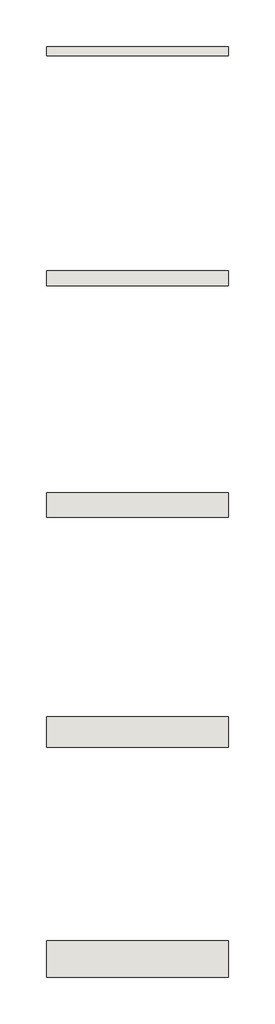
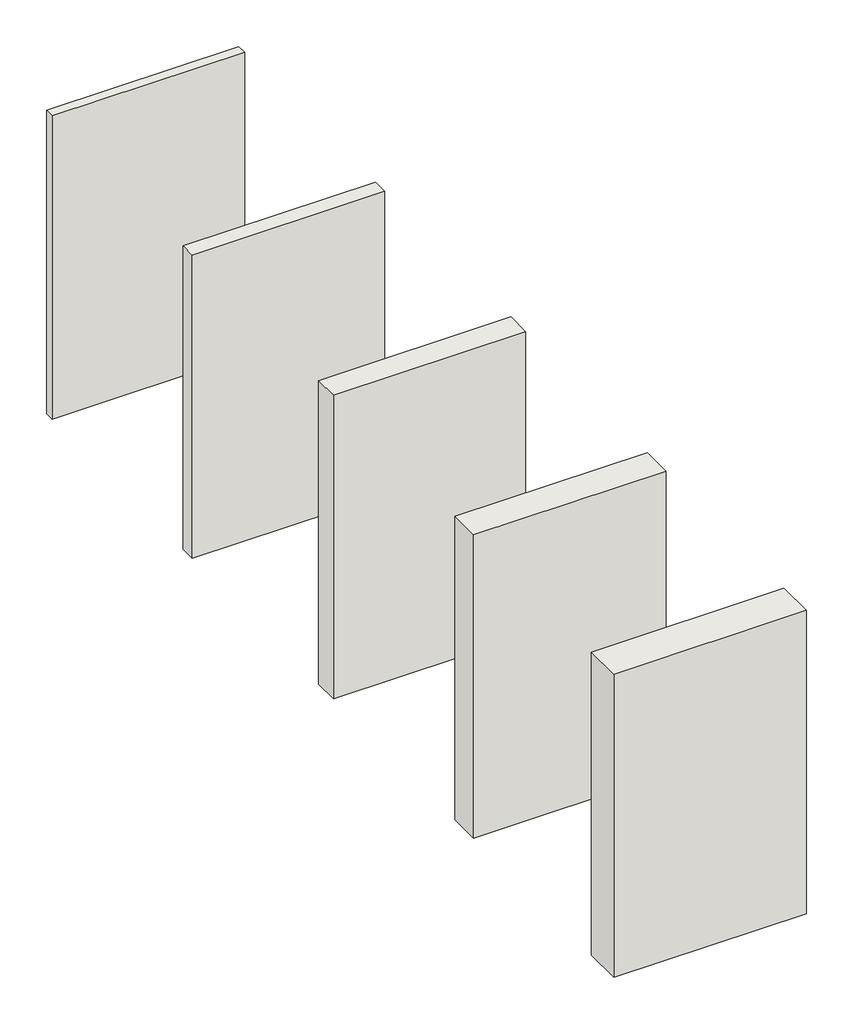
# One storey: 5 walls.
"""IFC4 building model written with IfcOpenShell, lengths in millimetres."""

from ifc_helpers import new_model, si_unit, origin, origin_with_axes, place, context, project, spatial, polyline, outline, extrude, element, save

model = new_model("IFC4")

# Units and contexts
model_context = context("Model", 3, world=origin())
ifc_project = project(units=[si_unit("LENGTHUNIT", "METRE", prefix="MILLI")], contexts=[model_context])

# Site, building, storey
site = spatial("IfcSite", under=ifc_project)
building = spatial("IfcBuilding", under=site)
storey = spatial("IfcBuildingStorey", under=building, Name="Референтни ниво", Elevation=0.0)

# Walls
placement = place(None, origin())
element("IfcWall", 1, ObjectType="Knauf Insulation - NaturBoard VENTI - 30 mm - 30 x 1000 x 600 mm", at=placement, inside=storey, context=model_context, shape_type="SweptSolid", body=[
    extrude(outline(polyline([(-251825.7417825, 183202.205474), (-252425.7417825, 183202.205474), (-252425.7417825, 183232.205474), (-251825.7417825, 183232.205474), (-251825.7417825, 183202.205474)])), origin_with_axes(), (0.0, 0.0, 1.0), 1000.0),
])
element("IfcWall", 2, ObjectType="Knauf Insulation - NaturBoard VENTI - 50 mm - 50 x 1000 x 600 mm", at=placement, inside=storey, context=model_context, shape_type="SweptSolid", body=[
    extrude(outline(polyline([(-251825.7417825, 182444.705474), (-252425.7417825, 182444.705474), (-252425.7417825, 182494.705474), (-251825.7417825, 182494.705474), (-251825.7417825, 182444.705474)])), origin_with_axes(), (0.0, 0.0, 1.0), 1000.0),
])
element("IfcWall", 3, ObjectType="Knauf Insulation - NaturBoard VENTI - 80 mm - 80 x 1000 x 600 mm", at=placement, inside=storey, context=model_context, shape_type="SweptSolid", body=[
    extrude(outline(polyline([(-251825.7417825, 181682.205474), (-252425.7417825, 181682.205474), (-252425.7417825, 181762.205474), (-251825.7417825, 181762.205474), (-251825.7417825, 181682.205474)])), origin_with_axes(), (0.0, 0.0, 1.0), 1000.0),
])
element("IfcWall", 4, ObjectType="Knauf Insulation - NaturBoard VENTI - 100 mm - 100 x 1000 x 600 mm", at=placement, inside=storey, context=model_context, shape_type="SweptSolid", body=[
    extrude(outline(polyline([(-251825.7417825, 180924.705474), (-252425.7417825, 180924.705474), (-252425.7417825, 181024.705474), (-251825.7417825, 181024.705474), (-251825.7417825, 180924.705474)])), origin_with_axes(), (0.0, 0.0, 1.0), 1000.0),
])
element("IfcWall", 5, ObjectType="Knauf Insulation - NaturBoard VENTI - 120 mm - 120 x 1000 x 600 mm", at=placement, inside=storey, context=model_context, shape_type="SweptSolid", body=[
    extrude(outline(polyline([(-251825.7417825, 180167.205474), (-252425.7417825, 180167.205474), (-252425.7417825, 180287.205474), (-251825.7417825, 180287.205474), (-251825.7417825, 180167.205474)])), origin_with_axes(), (0.0, 0.0, 1.0), 1000.0),
])

save(model, "model.ifc")
